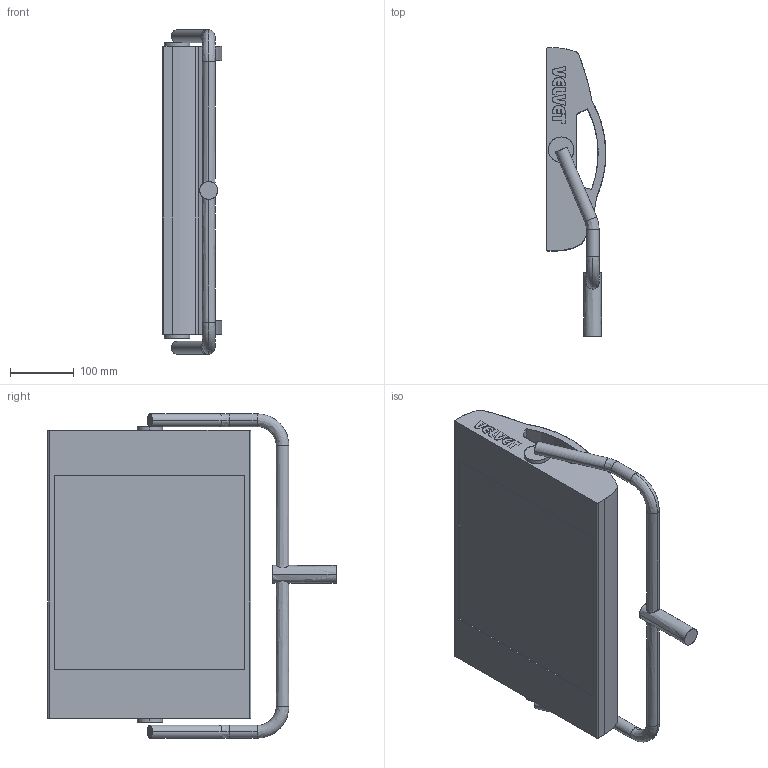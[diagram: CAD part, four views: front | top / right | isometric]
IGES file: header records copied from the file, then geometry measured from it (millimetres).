
Start section: SolidWorks IGES file using analytic representation for surfaces
Global section: file name: C:\Users\Eddy\Desktop\EVO1.IGS; native system: SolidWorks 2023; preprocessor: SolidWorks 2023; author: Eddy; date: 240714.160312; units: millimetre
Bounding box: 93.5 x 452.35 x 509 mm (x, y, z)
Surface area: 469826.9 mm2 (no closed solid volume)
Topology: 0 solids, 0 shells, 297 faces, 4148 edges, 4148 vertices
Faces by surface type: bspline 258, revolution 39
